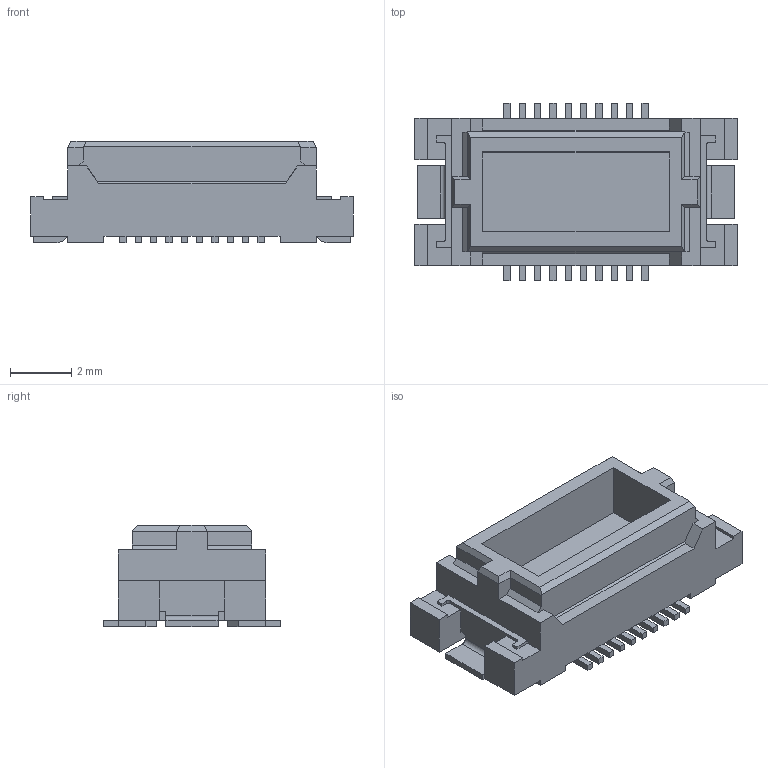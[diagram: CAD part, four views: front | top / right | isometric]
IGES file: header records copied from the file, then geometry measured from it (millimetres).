
Start section: SolidWorks IGES file using analytic representation for surfaces
Global section: file name: N:\Kamikawa_Hisako\★三次元モデル作成依頼\5046\X4_5046_XXX_XXX_XXX+_HP見直し\PLUG\14_5046_XXX_140(640)_XXX+\14_5046_020_140(640)_XXX+.IGS,15HSolidWorks; native system: 2017; preprocessor: SolidWorks 2017; author: HISAKO.KAMIKAWA.FJ; date: 211105.133601; units: millimetre
Bounding box: 10.5 x 5.8 x 3.3 mm (x, y, z)
Surface area: 242 mm2 (no closed solid volume)
Topology: 0 solids, 0 shells, 265 faces, 1788 edges, 1788 vertices
Faces by surface type: bspline 237, revolution 28
